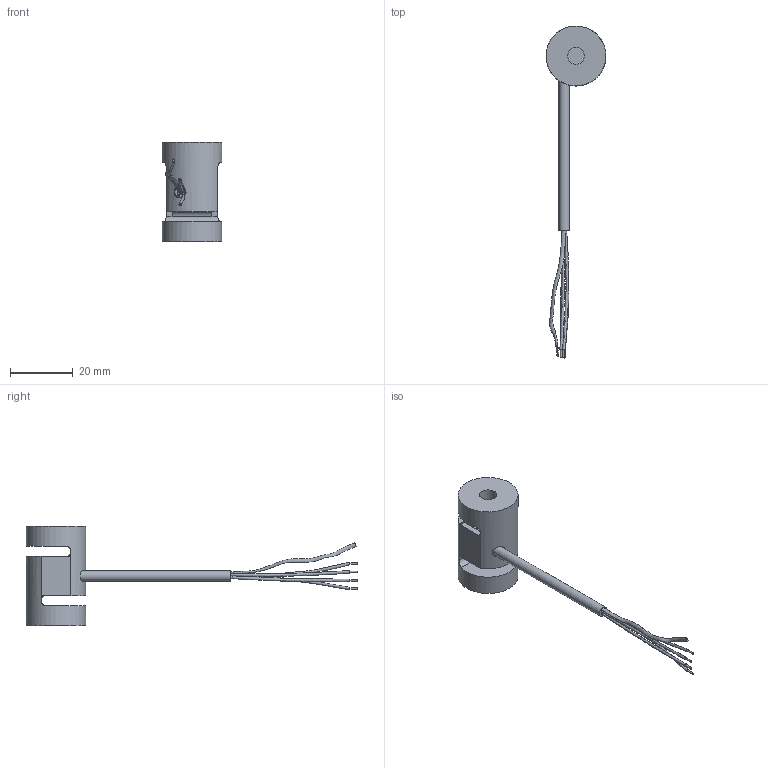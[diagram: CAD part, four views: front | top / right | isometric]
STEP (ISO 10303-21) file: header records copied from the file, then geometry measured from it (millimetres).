
FILE_DESCRIPTION (( 'STEP AP214' ), '1' );
FILE_NAME ('83558A.STEP', '2022-07-25T16:16:56', ( '' ), ( '' ), 'SwSTEP 2.0', 'SolidWorks 2021', '' );
FILE_SCHEMA (( 'AUTOMOTIVE_DESIGN' ));
Length unit declared in the file: inch
Products named in the file (4): 12353-WITH SHIELD_12353-2; 18935; 83558A; Cover Plug
Assembly tree (4 placements, depth 2):
  83558A
    18935
    Cover Plug  x2
    12353-WITH SHIELD_12353-2
Bounding box: 19.05 x 105.6 x 31.75 mm (x, y, z)
Volume: 6365.3 mm3; surface area: 5552.3 mm2
Topology: 5 solids, 5 shells, 135 faces, 337 edges, 219 vertices
Faces by surface type: plane 66, cylinder 56, torus 8, bspline 5
Full cylindrical faces by diameter (mm): 0.508 x4, 3.175 x2, 3.302 x1, 3.81 x1, 5.41 x2, 19.05 x2
Entity records: 3841 total; most frequent: CARTESIAN_POINT 1079, DIRECTION 544, ORIENTED_EDGE 486, EDGE_CURVE 243, AXIS2_PLACEMENT_3D 208, VERTEX_POINT 166, EDGE_LOOP 139, VECTOR 128
